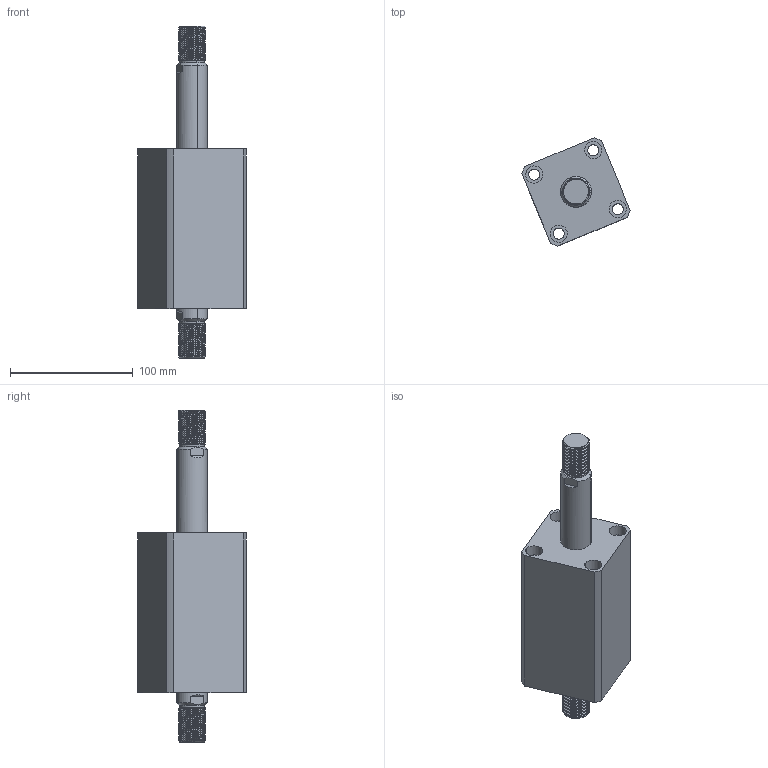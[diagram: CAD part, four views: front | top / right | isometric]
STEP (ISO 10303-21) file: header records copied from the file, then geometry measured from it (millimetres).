
FILE_DESCRIPTION (( 'STEP AP214' ), '1' );
FILE_NAME ('chtb-sw40x60w_asm.STEP', '2018-06-08T10:30:42', ( 'Windows' ), ( 'Microsoft' ), 'SwSTEP 2.0', 'SolidWorks 2015', '' );
FILE_SCHEMA (( 'AUTOMOTIVE_DESIGN' ));
Length unit declared in the file: millimetre
Products named in the file (4): CHTB-SW40X60NHSG; CHTB-SW40X60NBT; CHTB-SD40QG; chtb-sw40x60w_asm
Assembly tree (3 placements, depth 2):
  chtb-sw40x60w_asm
    CHTB-SD40QG
    CHTB-SW40X60NBT
    CHTB-SW40X60NHSG
Bounding box: 88.11 x 88.11 x 270 mm (x, y, z)
Volume: 601990.5 mm3; surface area: 112624.5 mm2
Topology: 3 solids, 3 shells, 254 faces, 680 edges, 452 vertices
Faces by surface type: cylinder 160, plane 46, bspline 18, cone 18, torus 12
Entity records: 17389 total; most frequent: CARTESIAN_POINT 11402, ORIENTED_EDGE 1348, DIRECTION 1094, EDGE_CURVE 674, VERTEX_POINT 452, AXIS2_PLACEMENT_3D 443, EDGE_LOOP 296, ADVANCED_FACE 254
